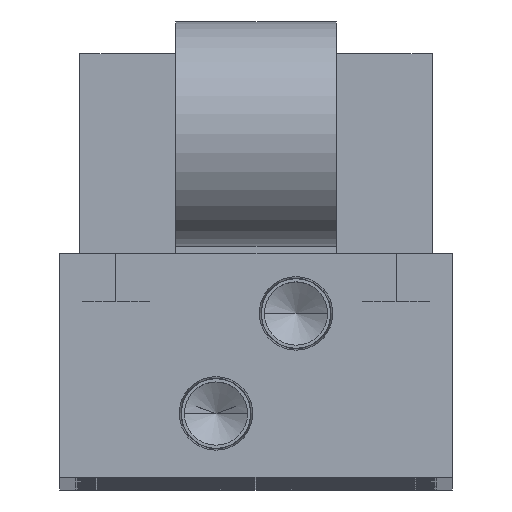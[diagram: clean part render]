
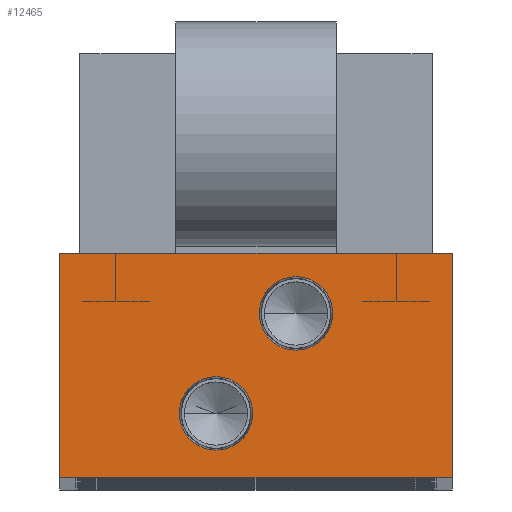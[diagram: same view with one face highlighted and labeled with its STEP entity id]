
A CAD part, top view. The second image highlights one B-rep face of the part: STEP entity #12465.
In plain terms, the highlighted planar face has unit normal (0, 0, 1).
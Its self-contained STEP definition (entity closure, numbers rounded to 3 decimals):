
#829 = CARTESIAN_POINT ( 'NONE',  ( 5., 20.5, 0. ) ) ;
#1406 = EDGE_CURVE ( 'NONE', #12145, #9414, #7708, .T. ) ;
#1452 = CIRCLE ( 'NONE', #7365, 4.592 ) ;
#1534 = FACE_BOUND ( 'NONE', #21055, .T. ) ;
#1695 = CARTESIAN_POINT ( 'NONE',  ( -24.5, 28., 0. ) ) ;
#3350 = DIRECTION ( 'NONE',  ( 0., 0., 1. ) ) ;
#3666 = DIRECTION ( 'NONE',  ( 1., 0., 0. ) ) ;
#4487 = ORIENTED_EDGE ( 'NONE', *, *, #24193, .F. ) ;
#4705 = CARTESIAN_POINT ( 'NONE',  ( -0.408, 8., 0. ) ) ;
#5043 = EDGE_CURVE ( 'NONE', #18594, #32909, #19048, .T. ) ;
#5150 = VECTOR ( 'NONE', #35519, 1000. ) ;
#5156 = EDGE_CURVE ( 'NONE', #14640, #34729, #36141, .T. ) ;
#7365 = AXIS2_PLACEMENT_3D ( 'NONE', #829, #20467, #3666 ) ;
#7708 = CIRCLE ( 'NONE', #35027, 4.592 ) ;
#8708 = CARTESIAN_POINT ( 'NONE',  ( 5., 20.5, 0. ) ) ;
#9022 = FACE_BOUND ( 'NONE', #27183, .T. ) ;
#9388 = AXIS2_PLACEMENT_3D ( 'NONE', #34085, #3350, #22957 ) ;
#9414 = VERTEX_POINT ( 'NONE', #10502 ) ;
#9486 = CARTESIAN_POINT ( 'NONE',  ( 24.5, 28., 0. ) ) ;
#9586 = CARTESIAN_POINT ( 'NONE',  ( -24.5, 0., 0. ) ) ;
#9638 = CARTESIAN_POINT ( 'NONE',  ( -9.592, 8., 0. ) ) ;
#10502 = CARTESIAN_POINT ( 'NONE',  ( 0.408, 20.5, 0. ) ) ;
#10582 = ORIENTED_EDGE ( 'NONE', *, *, #1406, .F. ) ;
#11496 = DIRECTION ( 'NONE',  ( 1., 0., 0. ) ) ;
#11984 = VERTEX_POINT ( 'NONE', #26053 ) ;
#12145 = VERTEX_POINT ( 'NONE', #32380 ) ;
#12383 = DIRECTION ( 'NONE',  ( 1., 0., 0. ) ) ;
#12465 = ADVANCED_FACE ( 'NONE', ( #1534, #9022, #16445 ), #14491, .T. ) ;
#12576 = LINE ( 'NONE', #1695, #5150 ) ;
#13097 = DIRECTION ( 'NONE',  ( 0., 0., 1. ) ) ;
#14284 = EDGE_LOOP ( 'NONE', ( #36157, #14641, #32665, #34445 ) ) ;
#14491 = PLANE ( 'NONE',  #9388 ) ;
#14640 = VERTEX_POINT ( 'NONE', #4705 ) ;
#14641 = ORIENTED_EDGE ( 'NONE', *, *, #5043, .T. ) ;
#14914 = VECTOR ( 'NONE', #31789, 1000. ) ;
#15311 = CARTESIAN_POINT ( 'NONE',  ( -5., 8., 0. ) ) ;
#15785 = LINE ( 'NONE', #28962, #14914 ) ;
#16445 = FACE_OUTER_BOUND ( 'NONE', #14284, .T. ) ;
#17812 = CIRCLE ( 'NONE', #20458, 4.592 ) ;
#18103 = DIRECTION ( 'NONE',  ( 1., 0., 0. ) ) ;
#18594 = VERTEX_POINT ( 'NONE', #30884 ) ;
#19048 = LINE ( 'NONE', #9586, #24748 ) ;
#19796 = CARTESIAN_POINT ( 'NONE',  ( 24.5, 0., 0. ) ) ;
#19928 = AXIS2_PLACEMENT_3D ( 'NONE', #29876, #13097, #32685 ) ;
#20458 = AXIS2_PLACEMENT_3D ( 'NONE', #15311, #34908, #18103 ) ;
#20467 = DIRECTION ( 'NONE',  ( 0., 0., 1. ) ) ;
#20613 = EDGE_CURVE ( 'NONE', #32909, #25519, #33381, .T. ) ;
#20750 = DIRECTION ( 'NONE',  ( 0., 1., 0. ) ) ;
#21013 = CARTESIAN_POINT ( 'NONE',  ( 24.5, 28., 0. ) ) ;
#21055 = EDGE_LOOP ( 'NONE', ( #29082, #31467 ) ) ;
#21762 = EDGE_CURVE ( 'NONE', #25519, #11984, #15785, .T. ) ;
#22272 = EDGE_CURVE ( 'NONE', #11984, #18594, #12576, .T. ) ;
#22624 = EDGE_CURVE ( 'NONE', #34729, #14640, #17812, .T. ) ;
#22957 = DIRECTION ( 'NONE',  ( 1., 0., 0. ) ) ;
#24193 = EDGE_CURVE ( 'NONE', #9414, #12145, #1452, .T. ) ;
#24748 = VECTOR ( 'NONE', #12383, 1000. ) ;
#25519 = VERTEX_POINT ( 'NONE', #21013 ) ;
#25956 = VECTOR ( 'NONE', #20750, 1000. ) ;
#26053 = CARTESIAN_POINT ( 'NONE',  ( -24.5, 28., 0. ) ) ;
#27183 = EDGE_LOOP ( 'NONE', ( #10582, #4487 ) ) ;
#28309 = DIRECTION ( 'NONE',  ( 0., 0., 1. ) ) ;
#28962 = CARTESIAN_POINT ( 'NONE',  ( -24.5, 28., 0. ) ) ;
#29082 = ORIENTED_EDGE ( 'NONE', *, *, #5156, .F. ) ;
#29876 = CARTESIAN_POINT ( 'NONE',  ( -5., 8., 0. ) ) ;
#30884 = CARTESIAN_POINT ( 'NONE',  ( -24.5, 0., 0. ) ) ;
#31467 = ORIENTED_EDGE ( 'NONE', *, *, #22624, .F. ) ;
#31789 = DIRECTION ( 'NONE',  ( -1., 0., 0. ) ) ;
#32380 = CARTESIAN_POINT ( 'NONE',  ( 9.592, 20.5, 0. ) ) ;
#32665 = ORIENTED_EDGE ( 'NONE', *, *, #20613, .T. ) ;
#32685 = DIRECTION ( 'NONE',  ( 1., 0., 0. ) ) ;
#32909 = VERTEX_POINT ( 'NONE', #19796 ) ;
#33381 = LINE ( 'NONE', #9486, #25956 ) ;
#34085 = CARTESIAN_POINT ( 'NONE',  ( 0., 0., 0. ) ) ;
#34445 = ORIENTED_EDGE ( 'NONE', *, *, #21762, .T. ) ;
#34729 = VERTEX_POINT ( 'NONE', #9638 ) ;
#34908 = DIRECTION ( 'NONE',  ( 0., 0., 1. ) ) ;
#35027 = AXIS2_PLACEMENT_3D ( 'NONE', #8708, #28309, #11496 ) ;
#35519 = DIRECTION ( 'NONE',  ( 0., -1., 0. ) ) ;
#36141 = CIRCLE ( 'NONE', #19928, 4.592 ) ;
#36157 = ORIENTED_EDGE ( 'NONE', *, *, #22272, .T. ) ;
